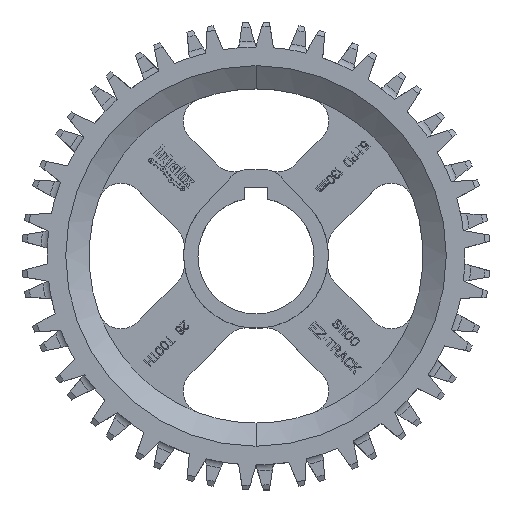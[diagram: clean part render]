
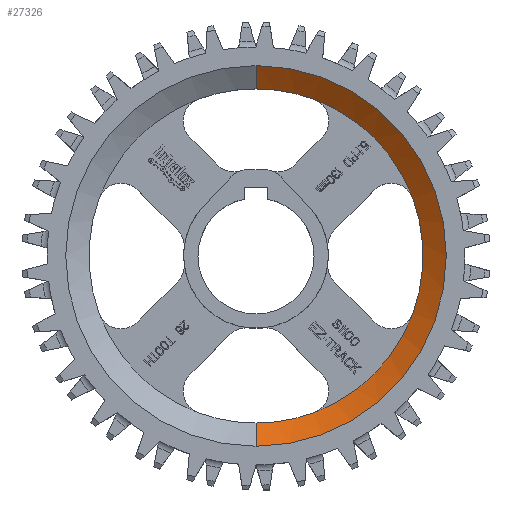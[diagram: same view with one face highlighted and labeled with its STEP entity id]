
A CAD part, top view. The second image highlights one B-rep face of the part: STEP entity #27326.
In plain terms, the highlighted conical face has half-angle 55.008 degrees and reference radius 48.883 mm.
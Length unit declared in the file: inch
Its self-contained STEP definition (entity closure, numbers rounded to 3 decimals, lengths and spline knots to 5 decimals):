
#1211=CARTESIAN_POINT('',(0.,0.,0.375));
#1212=DIRECTION('',(0.,0.,1.));
#1213=DIRECTION('',(0.,-1.,0.));
#1214=AXIS2_PLACEMENT_3D('',#1211,#1212,#1213);
#3136=CARTESIAN_POINT('',(0.,0.,0.2));
#3137=DIRECTION('',(0.,0.,1.));
#3138=DIRECTION('',(0.345,0.939,0.));
#3139=AXIS2_PLACEMENT_3D('',#3136,#3137,#3138);
#3141=CARTESIAN_POINT('',(0.,0.,0.2));
#3142=DIRECTION('',(0.,0.,1.));
#3143=DIRECTION('',(0.,-1.,0.));
#3144=AXIS2_PLACEMENT_3D('',#3141,#3142,#3143);
#3146=CARTESIAN_POINT('',(0.,0.,0.2));
#3147=DIRECTION('',(0.,0.,1.));
#3148=DIRECTION('',(0.939,-0.345,0.));
#3149=AXIS2_PLACEMENT_3D('',#3146,#3147,#3148);
#3164=CARTESIAN_POINT('',(0.,0.,0.2));
#3165=DIRECTION('',(0.,0.,-1.));
#3166=DIRECTION('',(0.345,0.939,0.));
#3167=AXIS2_PLACEMENT_3D('',#3164,#3165,#3166);
#3182=CARTESIAN_POINT('',(0.,0.,0.2));
#3183=DIRECTION('',(0.,0.,-1.));
#3184=DIRECTION('',(0.939,-0.345,0.));
#3185=AXIS2_PLACEMENT_3D('',#3182,#3183,#3184);
#7414=DIRECTION('',(0.,0.819,-0.573));
#7415=VECTOR('',#7414,0.30516);
#7416=CARTESIAN_POINT('',(0.,-2.04955,0.375));
#7417=LINE('',#7416,#7415);
#7418=DIRECTION('',(0.,-0.819,-0.573));
#7419=VECTOR('',#7418,0.30516);
#7420=CARTESIAN_POINT('',(0.,2.04955,0.375));
#7421=LINE('',#7420,#7419);
#18715=CARTESIAN_POINT('',(1.68888,0.62133,0.2));
#18717=VERTEX_POINT('',#18715);
#18727=CARTESIAN_POINT('',(0.62133,-1.68888,0.2));
#18729=VERTEX_POINT('',#18727);
#20470=CARTESIAN_POINT('',(0.,-2.04955,0.375));
#20471=CARTESIAN_POINT('',(0.,2.04955,0.375));
#20472=VERTEX_POINT('',#20470);
#20473=VERTEX_POINT('',#20471);
#20474=CARTESIAN_POINT('',(0.,1.79955,0.2));
#20475=VERTEX_POINT('',#20474);
#20478=CARTESIAN_POINT('',(0.,-1.79955,0.2));
#20479=VERTEX_POINT('',#20478);
#23302=CARTESIAN_POINT('',(0.62133,1.68888,
0.2));
#23303=VERTEX_POINT('',#23302);
#23306=CARTESIAN_POINT('',(1.68888,-0.62133,
0.2));
#23307=VERTEX_POINT('',#23306);
#27304=CARTESIAN_POINT('',(0.,0.,0.2875));
#27305=DIRECTION('',(0.,0.,1.));
#27306=DIRECTION('',(0.,1.,0.));
#27307=AXIS2_PLACEMENT_3D('',#27304,#27305,#27306);
#27308=CONICAL_SURFACE('',#27307,1.92455,55.008);
#27310=ORIENTED_EDGE('',*,*,#27309,.F.);
#27312=ORIENTED_EDGE('',*,*,#27311,.T.);
#27314=ORIENTED_EDGE('',*,*,#27313,.F.);
#27315=ORIENTED_EDGE('',*,*,#25649,.F.);
#27317=ORIENTED_EDGE('',*,*,#27316,.T.);
#27319=ORIENTED_EDGE('',*,*,#27318,.T.);
#27321=ORIENTED_EDGE('',*,*,#27320,.F.);
#27323=ORIENTED_EDGE('',*,*,#27322,.T.);
#27324=EDGE_LOOP('',(#27310,#27312,#27314,#27315,#27317,#27319,#27321,#27323));
#27325=FACE_OUTER_BOUND('',#27324,.F.);
#27326=ADVANCED_FACE('',(#27325),#27308,.F.);
#1215=CIRCLE('',#1214,2.04955);
#3140=CIRCLE('',#3139,1.79955);
#3145=CIRCLE('',#3144,1.79955);
#3150=CIRCLE('',#3149,1.79955);
#3168=CIRCLE('',#3167,1.79955);
#3186=CIRCLE('',#3185,1.79955);
#25649=EDGE_CURVE('',#20472,#20473,#1215,.T.);
#27309=EDGE_CURVE('',#23303,#18717,#3168,.T.);
#27311=EDGE_CURVE('',#23303,#20475,#3140,.T.);
#27313=EDGE_CURVE('',#20473,#20475,#7421,.T.);
#27316=EDGE_CURVE('',#20472,#20479,#7417,.T.);
#27318=EDGE_CURVE('',#20479,#18729,#3145,.T.);
#27320=EDGE_CURVE('',#23307,#18729,#3186,.T.);
#27322=EDGE_CURVE('',#23307,#18717,#3150,.T.);
